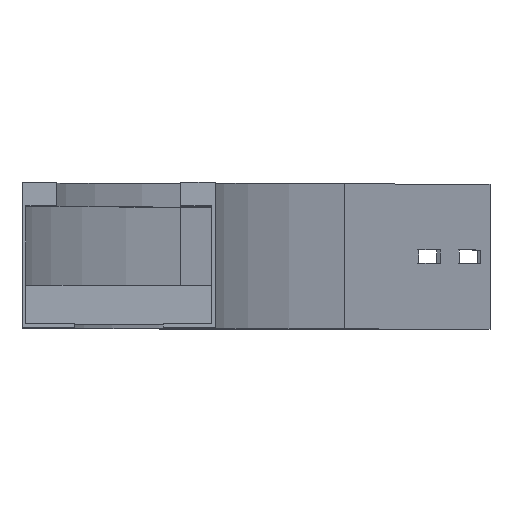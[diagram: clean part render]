
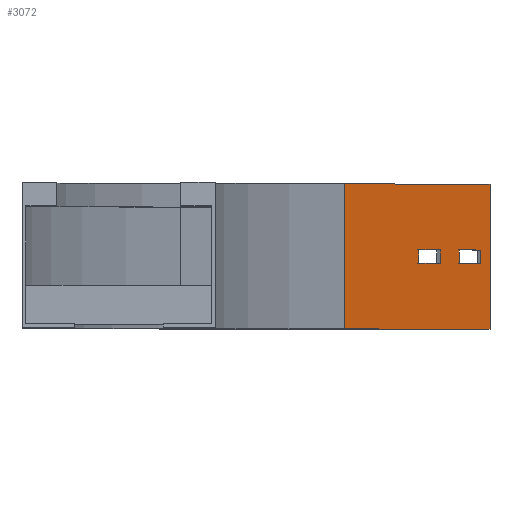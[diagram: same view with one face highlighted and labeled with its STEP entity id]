
A CAD part, top view. The second image highlights one B-rep face of the part: STEP entity #3072.
In plain terms, the highlighted planar face has unit normal (0.866, 0, 0.5).
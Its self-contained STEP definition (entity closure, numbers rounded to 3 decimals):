
#7 = VERTEX_POINT ( 'NONE', #3552 ) ;
#21 = LINE ( 'NONE', #629, #1892 ) ;
#37 = ORIENTED_EDGE ( 'NONE', *, *, #2997, .F. ) ;
#97 = DIRECTION ( 'NONE',  ( -0.5, 0., 0.866 ) ) ;
#131 = ORIENTED_EDGE ( 'NONE', *, *, #495, .F. ) ;
#174 = DIRECTION ( 'NONE',  ( 0., 1., 0. ) ) ;
#179 = VERTEX_POINT ( 'NONE', #2432 ) ;
#201 = DIRECTION ( 'NONE',  ( 0., 1., 0. ) ) ;
#236 = CARTESIAN_POINT ( 'NONE',  ( 66.987, 75., -400. ) ) ;
#297 = CARTESIAN_POINT ( 'NONE',  ( 141.987, 75., -529.904 ) ) ;
#348 = ORIENTED_EDGE ( 'NONE', *, *, #2544, .F. ) ;
#406 = CARTESIAN_POINT ( 'NONE',  ( 137.07, 34., -521.386 ) ) ;
#421 = EDGE_CURVE ( 'NONE', #3381, #837, #443, .T. ) ;
#443 = LINE ( 'NONE', #406, #3827 ) ;
#471 = EDGE_CURVE ( 'NONE', #3103, #7, #1567, .T. ) ;
#495 = EDGE_CURVE ( 'NONE', #7, #1375, #2645, .T. ) ;
#550 = LINE ( 'NONE', #236, #3014 ) ;
#629 = CARTESIAN_POINT ( 'NONE',  ( 126.07, 41., -502.334 ) ) ;
#684 = LINE ( 'NONE', #1881, #1540 ) ;
#693 = LINE ( 'NONE', #1910, #962 ) ;
#699 = DIRECTION ( 'NONE',  ( -0.5, 0., 0.866 ) ) ;
#720 = EDGE_CURVE ( 'NONE', #1053, #3103, #3163, .T. ) ;
#732 = EDGE_CURVE ( 'NONE', #179, #3768, #1421, .T. ) ;
#738 = VERTEX_POINT ( 'NONE', #2898 ) ;
#799 = CARTESIAN_POINT ( 'NONE',  ( 116.235, 41., -485.299 ) ) ;
#811 = DIRECTION ( 'NONE',  ( -0.5, 0., 0.866 ) ) ;
#826 = VECTOR ( 'NONE', #3645, 1000. ) ;
#837 = VERTEX_POINT ( 'NONE', #958 ) ;
#899 = VECTOR ( 'NONE', #201, 1000. ) ;
#958 = CARTESIAN_POINT ( 'NONE',  ( 137.07, 34., -521.386 ) ) ;
#962 = VECTOR ( 'NONE', #3100, 1000. ) ;
#967 = FACE_BOUND ( 'NONE', #3244, .T. ) ;
#983 = EDGE_CURVE ( 'NONE', #837, #2210, #693, .T. ) ;
#1053 = VERTEX_POINT ( 'NONE', #2189 ) ;
#1153 = ORIENTED_EDGE ( 'NONE', *, *, #471, .F. ) ;
#1201 = CARTESIAN_POINT ( 'NONE',  ( 105.235, 41., -466.247 ) ) ;
#1269 = CARTESIAN_POINT ( 'NONE',  ( 116.235, 34., -485.299 ) ) ;
#1312 = DIRECTION ( 'NONE',  ( 0.5, 0., -0.866 ) ) ;
#1324 = DIRECTION ( 'NONE',  ( 0.5, 0., -0.866 ) ) ;
#1325 = VECTOR ( 'NONE', #1969, 1000. ) ;
#1332 = FACE_OUTER_BOUND ( 'NONE', #3596, .T. ) ;
#1375 = VERTEX_POINT ( 'NONE', #3569 ) ;
#1392 = CARTESIAN_POINT ( 'NONE',  ( 66.987, 0., -400. ) ) ;
#1421 = LINE ( 'NONE', #2877, #1325 ) ;
#1540 = VECTOR ( 'NONE', #1312, 1000. ) ;
#1567 = LINE ( 'NONE', #2220, #2290 ) ;
#1585 = DIRECTION ( 'NONE',  ( 0.5, 0., -0.866 ) ) ;
#1614 = EDGE_CURVE ( 'NONE', #738, #2739, #1710, .T. ) ;
#1666 = ORIENTED_EDGE ( 'NONE', *, *, #1614, .F. ) ;
#1710 = LINE ( 'NONE', #1392, #2904 ) ;
#1881 = CARTESIAN_POINT ( 'NONE',  ( 66.987, 0., -400. ) ) ;
#1892 = VECTOR ( 'NONE', #3549, 1000. ) ;
#1910 = CARTESIAN_POINT ( 'NONE',  ( 137.07, 41., -521.386 ) ) ;
#1946 = EDGE_CURVE ( 'NONE', #738, #179, #684, .T. ) ;
#1969 = DIRECTION ( 'NONE',  ( 0., 1., 0. ) ) ;
#2184 = PLANE ( 'NONE',  #2209 ) ;
#2189 = CARTESIAN_POINT ( 'NONE',  ( 116.235, 34., -485.299 ) ) ;
#2190 = ORIENTED_EDGE ( 'NONE', *, *, #2870, .F. ) ;
#2199 = FACE_BOUND ( 'NONE', #3746, .T. ) ;
#2205 = VECTOR ( 'NONE', #811, 1000. ) ;
#2209 = AXIS2_PLACEMENT_3D ( 'NONE', #2455, #3365, #699 ) ;
#2210 = VERTEX_POINT ( 'NONE', #3245 ) ;
#2220 = CARTESIAN_POINT ( 'NONE',  ( 116.235, 41., -485.299 ) ) ;
#2290 = VECTOR ( 'NONE', #97, 1000. ) ;
#2317 = ORIENTED_EDGE ( 'NONE', *, *, #732, .T. ) ;
#2416 = DIRECTION ( 'NONE',  ( 0., -1., 0. ) ) ;
#2432 = CARTESIAN_POINT ( 'NONE',  ( 141.987, 0., -529.904 ) ) ;
#2445 = LINE ( 'NONE', #1269, #826 ) ;
#2455 = CARTESIAN_POINT ( 'NONE',  ( 66.987, 0., -400. ) ) ;
#2478 = EDGE_CURVE ( 'NONE', #2739, #3768, #550, .T. ) ;
#2508 = CARTESIAN_POINT ( 'NONE',  ( 116.235, 41., -485.299 ) ) ;
#2544 = EDGE_CURVE ( 'NONE', #1375, #1053, #2445, .T. ) ;
#2608 = VECTOR ( 'NONE', #2416, 1000. ) ;
#2645 = LINE ( 'NONE', #1201, #2608 ) ;
#2694 = CARTESIAN_POINT ( 'NONE',  ( 126.07, 34., -502.334 ) ) ;
#2739 = VERTEX_POINT ( 'NONE', #3719 ) ;
#2808 = CARTESIAN_POINT ( 'NONE',  ( 126.07, 41., -502.334 ) ) ;
#2870 = EDGE_CURVE ( 'NONE', #2210, #3047, #3755, .T. ) ;
#2877 = CARTESIAN_POINT ( 'NONE',  ( 141.987, 0., -529.904 ) ) ;
#2898 = CARTESIAN_POINT ( 'NONE',  ( 66.987, 0., -400. ) ) ;
#2904 = VECTOR ( 'NONE', #174, 1000. ) ;
#2928 = ORIENTED_EDGE ( 'NONE', *, *, #983, .F. ) ;
#2997 = EDGE_CURVE ( 'NONE', #3047, #3381, #21, .T. ) ;
#3014 = VECTOR ( 'NONE', #1324, 1000. ) ;
#3047 = VERTEX_POINT ( 'NONE', #2808 ) ;
#3072 = ADVANCED_FACE ( 'NONE', ( #2199, #967, #1332 ), #2184, .F. ) ;
#3090 = ORIENTED_EDGE ( 'NONE', *, *, #720, .F. ) ;
#3100 = DIRECTION ( 'NONE',  ( 0., 1., 0. ) ) ;
#3103 = VERTEX_POINT ( 'NONE', #2508 ) ;
#3163 = LINE ( 'NONE', #799, #899 ) ;
#3237 = ORIENTED_EDGE ( 'NONE', *, *, #2478, .F. ) ;
#3244 = EDGE_LOOP ( 'NONE', ( #1153, #3090, #348, #131 ) ) ;
#3245 = CARTESIAN_POINT ( 'NONE',  ( 137.07, 41., -521.386 ) ) ;
#3365 = DIRECTION ( 'NONE',  ( -0.866, 0., -0.5 ) ) ;
#3381 = VERTEX_POINT ( 'NONE', #2694 ) ;
#3480 = ORIENTED_EDGE ( 'NONE', *, *, #1946, .T. ) ;
#3484 = CARTESIAN_POINT ( 'NONE',  ( 137.07, 41., -521.386 ) ) ;
#3549 = DIRECTION ( 'NONE',  ( 0., -1., 0. ) ) ;
#3552 = CARTESIAN_POINT ( 'NONE',  ( 105.235, 41., -466.247 ) ) ;
#3569 = CARTESIAN_POINT ( 'NONE',  ( 105.235, 34., -466.247 ) ) ;
#3596 = EDGE_LOOP ( 'NONE', ( #3237, #1666, #3480, #2317 ) ) ;
#3645 = DIRECTION ( 'NONE',  ( 0.5, 0., -0.866 ) ) ;
#3719 = CARTESIAN_POINT ( 'NONE',  ( 66.987, 75., -400. ) ) ;
#3742 = ORIENTED_EDGE ( 'NONE', *, *, #421, .F. ) ;
#3746 = EDGE_LOOP ( 'NONE', ( #37, #2190, #2928, #3742 ) ) ;
#3755 = LINE ( 'NONE', #3484, #2205 ) ;
#3768 = VERTEX_POINT ( 'NONE', #297 ) ;
#3827 = VECTOR ( 'NONE', #1585, 1000. ) ;
